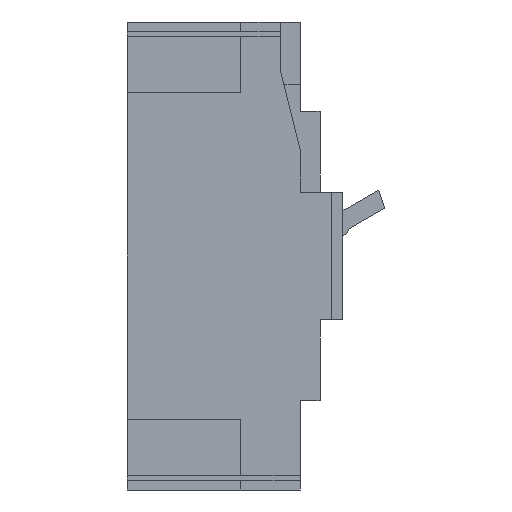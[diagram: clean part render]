
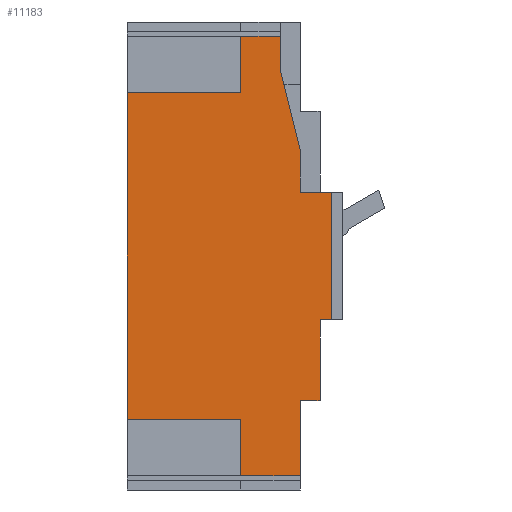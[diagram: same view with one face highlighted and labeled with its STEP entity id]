
A CAD part, left-side view. The second image highlights one B-rep face of the part: STEP entity #11183.
In plain terms, the highlighted planar face has unit normal (-1, 0, 0).
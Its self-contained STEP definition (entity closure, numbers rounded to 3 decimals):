
#2=DIRECTION('',(0.,-1.,0.));
#3=VECTOR('',#2,40.);
#4=CARTESIAN_POINT('',(-70.,30.5,-57.5));
#5=LINE('',#4,#3);
#6=DIRECTION('',(0.,0.,1.));
#7=VECTOR('',#6,115.);
#8=CARTESIAN_POINT('',(-70.,30.5,-57.5));
#9=LINE('',#8,#7);
#10=DIRECTION('',(0.,-1.,0.));
#11=VECTOR('',#10,40.);
#12=CARTESIAN_POINT('',(-70.,30.5,57.5));
#13=LINE('',#12,#11);
#14=DIRECTION('',(0.,0.,-1.));
#15=VECTOR('',#14,20.);
#16=CARTESIAN_POINT('',(-70.,-9.5,77.5));
#17=LINE('',#16,#15);
#18=DIRECTION('',(0.,-1.,0.));
#19=VECTOR('',#18,14.);
#20=CARTESIAN_POINT('',(-70.,-9.5,77.5));
#21=LINE('',#20,#19);
#22=DIRECTION('',(0.,0.,-1.));
#23=VECTOR('',#22,12.);
#24=CARTESIAN_POINT('',(-70.,-23.5,77.5));
#25=LINE('',#24,#23);
#26=DIRECTION('',(0.,0.243,0.97));
#27=VECTOR('',#26,28.862);
#28=CARTESIAN_POINT('',(-70.,-30.5,37.5));
#29=LINE('',#28,#27);
#30=DIRECTION('',(0.,0.,1.));
#31=VECTOR('',#30,15.);
#32=CARTESIAN_POINT('',(-70.,-30.5,22.5));
#33=LINE('',#32,#31);
#34=DIRECTION('',(0.,0.,-1.));
#35=VECTOR('',#34,45.);
#36=CARTESIAN_POINT('',(-70.,-41.5,22.5));
#37=LINE('',#36,#35);
#38=DIRECTION('',(0.,1.,0.));
#39=VECTOR('',#38,4.);
#40=CARTESIAN_POINT('',(-70.,-41.5,-22.5));
#41=LINE('',#40,#39);
#42=DIRECTION('',(0.,0.,-1.));
#43=VECTOR('',#42,28.5);
#44=CARTESIAN_POINT('',(-70.,-37.5,-22.5));
#45=LINE('',#44,#43);
#46=DIRECTION('',(0.,1.,0.));
#47=VECTOR('',#46,7.);
#48=CARTESIAN_POINT('',(-70.,-37.5,-51.));
#49=LINE('',#48,#47);
#50=DIRECTION('',(0.,0.,-1.));
#51=VECTOR('',#50,26.5);
#52=CARTESIAN_POINT('',(-70.,-30.5,-51.));
#53=LINE('',#52,#51);
#54=DIRECTION('',(0.,-1.,0.));
#55=VECTOR('',#54,21.);
#56=CARTESIAN_POINT('',(-70.,-9.5,-77.5));
#57=LINE('',#56,#55);
#58=DIRECTION('',(0.,0.,1.));
#59=VECTOR('',#58,20.);
#60=CARTESIAN_POINT('',(-70.,-9.5,-77.5));
#61=LINE('',#60,#59);
#979=DIRECTION('',(0.,1.,0.));
#980=VECTOR('',#979,11.);
#981=CARTESIAN_POINT('',(-70.,-41.5,22.5));
#982=LINE('',#981,#980);
#8402=CARTESIAN_POINT('',(-70.,-37.5,-22.5));
#8403=CARTESIAN_POINT('',(-70.,-37.5,-51.));
#8404=VERTEX_POINT('',#8402);
#8405=VERTEX_POINT('',#8403);
#8406=CARTESIAN_POINT('',(-70.,-30.5,-51.));
#8407=VERTEX_POINT('',#8406);
#9524=CARTESIAN_POINT('',(-70.,-30.5,-77.5));
#9525=VERTEX_POINT('',#9524);
#9590=CARTESIAN_POINT('',(-70.,-41.5,22.5));
#9591=CARTESIAN_POINT('',(-70.,-41.5,-22.5));
#9592=VERTEX_POINT('',#9590);
#9593=VERTEX_POINT('',#9591);
#9918=CARTESIAN_POINT('',(-70.,-30.5,22.5));
#9919=VERTEX_POINT('',#9918);
#9920=CARTESIAN_POINT('',(-70.,-30.5,37.5));
#9921=VERTEX_POINT('',#9920);
#9922=CARTESIAN_POINT('',(-70.,-23.5,65.5));
#9924=VERTEX_POINT('',#9922);
#9930=CARTESIAN_POINT('',(-70.,-23.5,77.5));
#9931=VERTEX_POINT('',#9930);
#10130=CARTESIAN_POINT('',(-70.,-9.5,-57.5));
#10131=VERTEX_POINT('',#10130);
#10132=CARTESIAN_POINT('',(-70.,-9.5,57.5));
#10133=VERTEX_POINT('',#10132);
#10134=CARTESIAN_POINT('',(-70.,30.5,-57.5));
#10135=VERTEX_POINT('',#10134);
#10140=CARTESIAN_POINT('',(-70.,-9.5,-77.5));
#10141=VERTEX_POINT('',#10140);
#10146=CARTESIAN_POINT('',(-70.,-9.5,77.5));
#10147=VERTEX_POINT('',#10146);
#10148=CARTESIAN_POINT('',(-70.,30.5,57.5));
#10149=VERTEX_POINT('',#10148);
#11144=CARTESIAN_POINT('',(-70.,0.,0.));
#11145=DIRECTION('',(1.,0.,0.));
#11146=DIRECTION('',(0.,-1.,0.));
#11147=AXIS2_PLACEMENT_3D('',#11144,#11145,#11146);
#11148=PLANE('',#11147);
#11150=ORIENTED_EDGE('',*,*,#11149,.F.);
#11152=ORIENTED_EDGE('',*,*,#11151,.T.);
#11154=ORIENTED_EDGE('',*,*,#11153,.T.);
#11156=ORIENTED_EDGE('',*,*,#11155,.F.);
#11158=ORIENTED_EDGE('',*,*,#11157,.T.);
#11160=ORIENTED_EDGE('',*,*,#11159,.T.);
#11162=ORIENTED_EDGE('',*,*,#11161,.F.);
#11164=ORIENTED_EDGE('',*,*,#11163,.F.);
#11166=ORIENTED_EDGE('',*,*,#11165,.F.);
#11168=ORIENTED_EDGE('',*,*,#11167,.T.);
#11170=ORIENTED_EDGE('',*,*,#11169,.T.);
#11172=ORIENTED_EDGE('',*,*,#11171,.T.);
#11174=ORIENTED_EDGE('',*,*,#11173,.T.);
#11176=ORIENTED_EDGE('',*,*,#11175,.T.);
#11178=ORIENTED_EDGE('',*,*,#11177,.F.);
#11180=ORIENTED_EDGE('',*,*,#11179,.T.);
#11181=EDGE_LOOP('',(#11150,#11152,#11154,#11156,#11158,#11160,#11162,#11164,
#11166,#11168,#11170,#11172,#11174,#11176,#11178,#11180));
#11182=FACE_OUTER_BOUND('',#11181,.F.);
#11149=EDGE_CURVE('',#10135,#10131,#5,.T.);
#11151=EDGE_CURVE('',#10135,#10149,#9,.T.);
#11153=EDGE_CURVE('',#10149,#10133,#13,.T.);
#11155=EDGE_CURVE('',#10147,#10133,#17,.T.);
#11157=EDGE_CURVE('',#10147,#9931,#21,.T.);
#11159=EDGE_CURVE('',#9931,#9924,#25,.T.);
#11161=EDGE_CURVE('',#9921,#9924,#29,.T.);
#11163=EDGE_CURVE('',#9919,#9921,#33,.T.);
#11165=EDGE_CURVE('',#9592,#9919,#982,.T.);
#11167=EDGE_CURVE('',#9592,#9593,#37,.T.);
#11169=EDGE_CURVE('',#9593,#8404,#41,.T.);
#11171=EDGE_CURVE('',#8404,#8405,#45,.T.);
#11173=EDGE_CURVE('',#8405,#8407,#49,.T.);
#11175=EDGE_CURVE('',#8407,#9525,#53,.T.);
#11177=EDGE_CURVE('',#10141,#9525,#57,.T.);
#11179=EDGE_CURVE('',#10141,#10131,#61,.T.);
#11183=ADVANCED_FACE('',(#11182),#11148,.F.);
